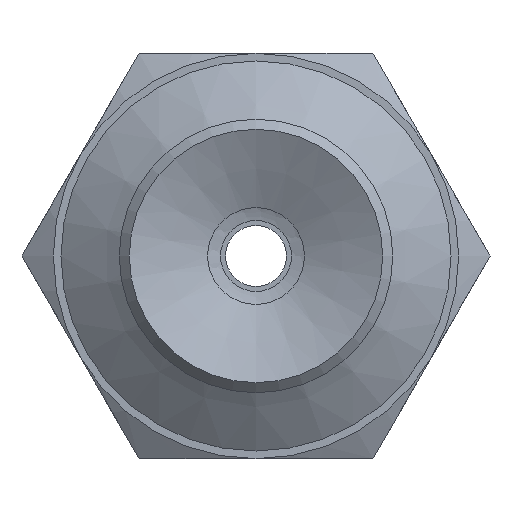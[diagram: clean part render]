
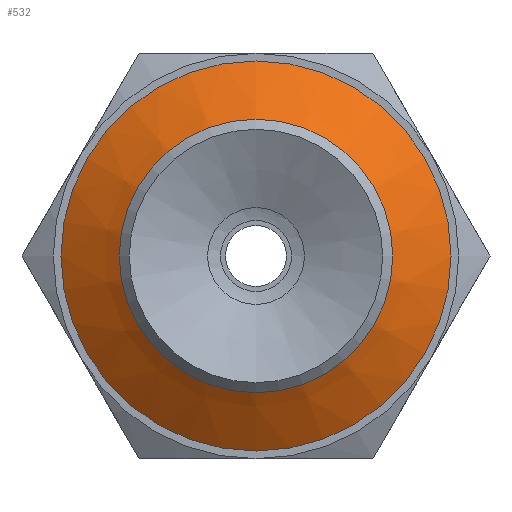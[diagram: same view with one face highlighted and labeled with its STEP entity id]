
A CAD part, front view. The second image highlights one B-rep face of the part: STEP entity #532.
In plain terms, the highlighted conical face has half-angle 55 degrees and reference radius 1.794 mm.
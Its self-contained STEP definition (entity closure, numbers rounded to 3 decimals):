
#532=ADVANCED_FACE('',(#750,#751),#752,.T.);
#750=FACE_BOUND('',#1029,.T.);
#751=FACE_OUTER_BOUND('',#1030,.T.);
#752=CONICAL_SURFACE('',#1031,1.794,0.96);
#1029=EDGE_LOOP('',(#1672));
#1030=EDGE_LOOP('',(#1673));
#1031=AXIS2_PLACEMENT_3D('',#1674,#1675,#1676);
#1672=ORIENTED_EDGE('',*,*,#2004,.T.);
#1673=ORIENTED_EDGE('',*,*,#2001,.T.);
#1674=CARTESIAN_POINT('',(0.0,7.118,0.));
#1675=DIRECTION('',(0.0,1.0,0.));
#1676=DIRECTION('',(0.0,0.,1.0));
#2001=EDGE_CURVE('',#2278,#2278,#2279,.T.);
#2004=EDGE_CURVE('',#2284,#2284,#2285,.T.);
#2278=VERTEX_POINT('',#2896);
#2279=CIRCLE('',#2897,3.85);
#2284=VERTEX_POINT('',#2902);
#2285=CIRCLE('',#2903,2.114);
#2896=CARTESIAN_POINT('',(0.0,8.558,-3.85));
#2897=AXIS2_PLACEMENT_3D('',#3201,#3202,#3203);
#2902=CARTESIAN_POINT('',(0.0,7.342,2.114));
#2903=AXIS2_PLACEMENT_3D('',#3210,#3211,#3212);
#3201=CARTESIAN_POINT('',(0.0,8.558,0.));
#3202=DIRECTION('',(0.0,-1.0,0.));
#3203=DIRECTION('',(0.0,0.,-1.0));
#3210=CARTESIAN_POINT('',(0.0,7.342,0.));
#3211=DIRECTION('',(0.0,1.0,0.));
#3212=DIRECTION('',(0.0,0.,1.0));
